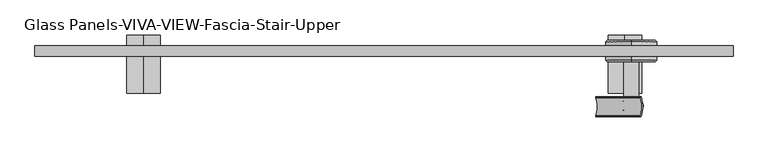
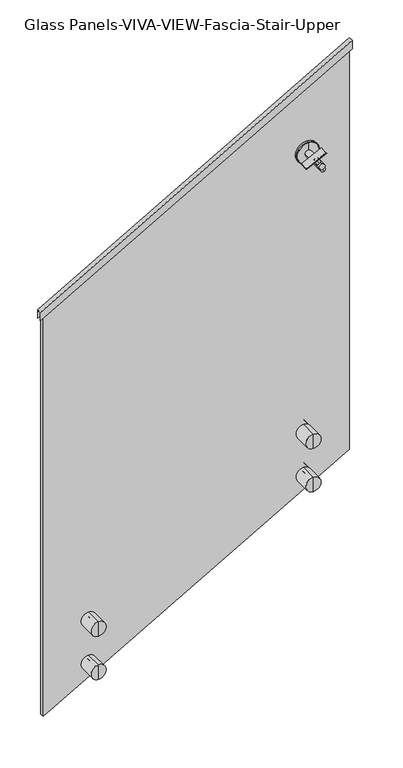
"""IFC4 building model written with IfcOpenShell, lengths in millimetres: railing geometry, Glass Panels-VIVA-VIEW-Fascia-Stair-Upper."""

from ifc_helpers import new_model, si_unit, point, frame, frame_2d, origin, place, context, project, spatial, polyline, circle_curve, trimmed, segment, composite_curve, outline, extrude, faceted_brep, source, transform, mapped, element, save
from ifc_brep_helpers import plane_surface, cylinder_surface, revolved_surface, advanced_brep


def glass_panels_viva_view_fascia_stair_upper_51e52ba1(model_context):
    return source(origin(), model_context, "Body", "SolidModel", [
        faceted_brep([(36710.9578933, -1461.4844585, 3542.8464286), (36710.9578933, -1445.6094585, 3542.8464286), (36710.9578933, -1445.6094585, 3513.5919505), (36710.9578933, -1447.1969585, 3513.5919505), (36710.9578933, -1447.1969585, 3541.0180237), (36710.9578933, -1459.8969585, 3541.0180237), (36710.9578933, -1459.8969585, 3513.5919505), (36710.9578933, -1461.4844585, 3513.5919505), (37756.3266433, -1461.4844585, 4140.2), (37756.3266433, -1461.4844585, 4110.9455219), (37756.3266433, -1459.8969585, 4110.9455219), (37756.3266433, -1459.8969585, 4138.3715951), (37756.3266433, -1447.1969585, 4138.3715951), (37756.3266433, -1447.1969585, 4110.9455219), (37756.3266433, -1445.6094585, 4110.9455219), (37756.3266433, -1445.6094585, 4140.2)], [[[0, 1, 2, 3, 4, 5, 6, 7]], [[8, 9, 10, 11, 12, 13, 14, 15]], [[1, 0, 8, 15]], [[2, 1, 15, 14]], [[3, 2, 14, 13]], [[4, 3, 13, 12]], [[5, 4, 12, 11]], [[6, 5, 11, 10]], [[7, 6, 10, 9]], [[0, 7, 9, 8]]]),
        advanced_brep(
        [(36873.6628149, -1429.7347524, 2222.2661821), (36873.6628149, -1429.7347524, 2247.6661821), (36873.6628149, -1429.7347524, 2273.0661821), (36873.6628149, -1447.1972524, 2222.2661821), (36873.6628149, -1447.1972524, 2273.0661821), (36873.6628149, -1447.1972524, 2241.9511821), (36873.6628149, -1447.1972524, 2253.3811821), (36873.6628149, -1459.8972524, 2241.9511821), (36873.6628149, -1459.8972524, 2253.3811821), (36873.6628149, -1459.8972524, 2222.2661821), (36873.6628149, -1459.8972524, 2273.0661821), (36873.6628149, -1517.0471054, 2222.2661821), (36873.6628149, -1517.0471054, 2273.0661821), (36873.6628149, -1517.0471054, 2247.6661821)],
        [
            (0, 1),
            (1, 2),
            (2, 0, circle_curve(frame((36873.6628149, -1429.7347524, 2247.6661821), z_axis=(0.0, 1.0, 0.0), x_axis=(0.0, 0.0, 1.0)), 25.4)),
            (0, 2, circle_curve(frame((36873.6628149, -1429.7347524, 2247.6661821), z_axis=(0.0, 1.0, 0.0), x_axis=(0.0, 0.0, 1.0)), 25.4)),
            (3, 0),
            (2, 4),
            (4, 3, circle_curve(frame((36873.6628149, -1447.1972524, 2247.6661821), z_axis=(0.0, 1.0, 0.0), x_axis=(0.0, 0.0, 1.0)), 25.4)),
            (3, 4, circle_curve(frame((36873.6628149, -1447.1972524, 2247.6661821), z_axis=(0.0, 1.0, 0.0), x_axis=(0.0, 0.0, 1.0)), 25.4)),
            (5, 3),
            (4, 6),
            (6, 5, circle_curve(frame((36873.6628149, -1447.1972524, 2247.6661821), z_axis=(0.0, 1.0, 0.0), x_axis=(0.0, 0.0, 1.0)), 5.715)),
            (5, 6, circle_curve(frame((36873.6628149, -1447.1972524, 2247.6661821), z_axis=(0.0, 1.0, 0.0), x_axis=(0.0, 0.0, 1.0)), 5.715)),
            (7, 5),
            (6, 8),
            (8, 7, circle_curve(frame((36873.6628149, -1459.8972524, 2247.6661821), z_axis=(0.0, 1.0, 0.0), x_axis=(0.0, 0.0, 1.0)), 5.715)),
            (7, 8, circle_curve(frame((36873.6628149, -1459.8972524, 2247.6661821), z_axis=(0.0, 1.0, 0.0), x_axis=(0.0, 0.0, 1.0)), 5.715)),
            (9, 7),
            (8, 10),
            (10, 9, circle_curve(frame((36873.6628149, -1459.8972524, 2247.6661821), z_axis=(0.0, 1.0, 0.0), x_axis=(0.0, 0.0, 1.0)), 25.4)),
            (9, 10, circle_curve(frame((36873.6628149, -1459.8972524, 2247.6661821), z_axis=(0.0, 1.0, 0.0), x_axis=(0.0, 0.0, 1.0)), 25.4)),
            (11, 9),
            (10, 12),
            (12, 11, circle_curve(frame((36873.6628149, -1517.0471054, 2247.6661821), z_axis=(0.0, 1.0, 0.0), x_axis=(0.0, 0.0, 1.0)), 25.4)),
            (11, 12, circle_curve(frame((36873.6628149, -1517.0471054, 2247.6661821), z_axis=(0.0, 1.0, 0.0), x_axis=(0.0, 0.0, 1.0)), 25.4)),
            (13, 11),
            (12, 13),
        ],
        [
            plane_surface(frame((36873.6628149, -1429.7347524, 2247.6661821), z_axis=(0.0, 1.0, 0.0), x_axis=(0.0, 0.0, 1.0))),
            cylinder_surface(frame((36873.6628149, -1361.4721054, 2247.6661821), z_axis=(0.0, -1.0, 0.0), x_axis=(0.0, 0.0, 1.0)), 25.4),
            plane_surface(frame((36873.6628149, -1447.1972524, 2247.6661821), z_axis=(0.0, -1.0, 0.0), x_axis=(0.0, 0.0, 1.0))),
            cylinder_surface(frame((36873.6628149, -1361.4721054, 2247.6661821), z_axis=(0.0, -1.0, 0.0), x_axis=(0.0, 0.0, 1.0)), 5.715),
            plane_surface(frame((36873.6628149, -1459.8972524, 2247.6661821), z_axis=(0.0, 1.0, 0.0), x_axis=(0.0, 0.0, 1.0))),
            plane_surface(frame((36873.6628149, -1517.0471054, 2247.6661821), z_axis=(0.0, -1.0, 0.0), x_axis=(0.0, 0.0, 1.0))),
        ],
        [
            (0, [[1, 2, 3]]),
            (0, [[-2, -1, 4]]),
            (1, [[5, -3, 6, 7]]),
            (1, [[-6, -4, -5, 8]]),
            (2, [[9, -7, 10, 11]]),
            (2, [[-10, -8, -9, 12]]),
            (3, [[13, -11, 14, 15]]),
            (3, [[-14, -12, -13, 16]]),
            (4, [[17, -15, 18, 19]]),
            (4, [[-18, -16, -17, 20]]),
            (1, [[21, -19, 22, 23]]),
            (1, [[-22, -20, -21, 24]]),
            (5, [[25, -23, 26]]),
            (5, [[-26, -24, -25]]),
        ],
    ),
        advanced_brep(
        [(36873.6628149, -1447.1972524, 2394.3511821), (36873.6628149, -1447.1972524, 2374.6661821), (36873.6628149, -1447.1972524, 2425.4661821), (36873.6628149, -1447.1972524, 2405.7811821), (36873.6628149, -1459.8972524, 2394.3511821), (36873.6628149, -1459.8972524, 2405.7811821), (36873.6628149, -1459.8972524, 2374.6661821), (36873.6628149, -1459.8972524, 2425.4661821), (36873.6628149, -1517.0471054, 2374.6661821), (36873.6628149, -1517.0471054, 2425.4661821), (36873.6628149, -1517.0471054, 2400.0661821), (36873.6628149, -1429.7347524, 2374.6661821), (36873.6628149, -1429.7347524, 2400.0661821), (36873.6628149, -1429.7347524, 2425.4661821)],
        [
            (0, 1),
            (1, 2, circle_curve(frame((36873.6628149, -1447.1972524, 2400.0661821), z_axis=(0.0, -1.0, 0.0), x_axis=(0.0, 0.0, 1.0)), 25.4)),
            (2, 3),
            (3, 0, circle_curve(frame((36873.6628149, -1447.1972524, 2400.0661821), z_axis=(0.0, 1.0, 0.0), x_axis=(0.0, 0.0, 1.0)), 5.715)),
            (2, 1, circle_curve(frame((36873.6628149, -1447.1972524, 2400.0661821), z_axis=(0.0, -1.0, 0.0), x_axis=(0.0, 0.0, 1.0)), 25.4)),
            (0, 3, circle_curve(frame((36873.6628149, -1447.1972524, 2400.0661821), z_axis=(0.0, 1.0, 0.0), x_axis=(0.0, 0.0, 1.0)), 5.715)),
            (4, 0),
            (3, 5),
            (5, 4, circle_curve(frame((36873.6628149, -1459.8972524, 2400.0661821), z_axis=(0.0, 1.0, 0.0), x_axis=(0.0, 0.0, 1.0)), 5.715)),
            (4, 5, circle_curve(frame((36873.6628149, -1459.8972524, 2400.0661821), z_axis=(0.0, 1.0, 0.0), x_axis=(0.0, 0.0, 1.0)), 5.715)),
            (6, 4),
            (5, 7),
            (7, 6, circle_curve(frame((36873.6628149, -1459.8972524, 2400.0661821), z_axis=(0.0, 1.0, 0.0), x_axis=(0.0, 0.0, 1.0)), 25.4)),
            (6, 7, circle_curve(frame((36873.6628149, -1459.8972524, 2400.0661821), z_axis=(0.0, 1.0, 0.0), x_axis=(0.0, 0.0, 1.0)), 25.4)),
            (8, 6),
            (7, 9),
            (9, 8, circle_curve(frame((36873.6628149, -1517.0471054, 2400.0661821), z_axis=(0.0, 1.0, 0.0), x_axis=(0.0, 0.0, 1.0)), 25.4)),
            (8, 9, circle_curve(frame((36873.6628149, -1517.0471054, 2400.0661821), z_axis=(0.0, 1.0, 0.0), x_axis=(0.0, 0.0, 1.0)), 25.4)),
            (10, 8),
            (9, 10),
            (11, 12),
            (12, 13),
            (13, 11, circle_curve(frame((36873.6628149, -1429.7347524, 2400.0661821), z_axis=(0.0, 1.0, 0.0), x_axis=(0.0, 0.0, 1.0)), 25.4)),
            (11, 13, circle_curve(frame((36873.6628149, -1429.7347524, 2400.0661821), z_axis=(0.0, 1.0, 0.0), x_axis=(0.0, 0.0, 1.0)), 25.4)),
            (1, 11),
            (13, 2),
        ],
        [
            plane_surface(frame((36873.6628149, -1447.1972524, 2400.0661821), z_axis=(0.0, -1.0, 0.0), x_axis=(0.0, 0.0, 1.0))),
            cylinder_surface(frame((36873.6628149, -1361.4721054, 2400.0661821), z_axis=(0.0, -1.0, 0.0), x_axis=(0.0, 0.0, 1.0)), 5.715),
            plane_surface(frame((36873.6628149, -1459.8972524, 2400.0661821), z_axis=(0.0, 1.0, 0.0), x_axis=(0.0, 0.0, 1.0))),
            cylinder_surface(frame((36873.6628149, -1361.4721054, 2400.0661821), z_axis=(0.0, -1.0, 0.0), x_axis=(0.0, 0.0, 1.0)), 25.4),
            plane_surface(frame((36873.6628149, -1517.0471054, 2400.0661821), z_axis=(0.0, -1.0, 0.0), x_axis=(0.0, 0.0, 1.0))),
            plane_surface(frame((36873.6628149, -1429.7347524, 2400.0661821), z_axis=(0.0, 1.0, 0.0), x_axis=(0.0, 0.0, 1.0))),
        ],
        [
            (0, [[1, 2, 3, 4]]),
            (0, [[-3, 5, -1, 6]]),
            (1, [[7, -4, 8, 9]]),
            (1, [[-8, -6, -7, 10]]),
            (2, [[11, -9, 12, 13]]),
            (2, [[-12, -10, -11, 14]]),
            (3, [[15, -13, 16, 17]]),
            (3, [[-16, -14, -15, 18]]),
            (4, [[19, -17, 20]]),
            (4, [[-20, -18, -19]]),
            (5, [[21, 22, 23]]),
            (5, [[-22, -21, 24]]),
            (3, [[25, -23, 26, -2]]),
            (3, [[-26, -24, -25, -5]]),
        ],
    ),
        advanced_brep(
        [(37594.3878149, -1429.7347524, 2634.1090392), (37594.3878149, -1429.7347524, 2659.5090392), (37594.3878149, -1429.7347524, 2684.9090392), (37594.3878149, -1447.1972524, 2634.1090392), (37594.3878149, -1447.1972524, 2684.9090392), (37594.3878149, -1447.1972524, 2653.7940392), (37594.3878149, -1447.1972524, 2665.2240392), (37594.3878149, -1459.8972524, 2653.7940392), (37594.3878149, -1459.8972524, 2665.2240392), (37594.3878149, -1459.8972524, 2634.1090392), (37594.3878149, -1459.8972524, 2684.9090392), (37594.3878149, -1517.0471054, 2634.1090392), (37594.3878149, -1517.0471054, 2684.9090392), (37594.3878149, -1517.0471054, 2659.5090392)],
        [
            (0, 1),
            (1, 2),
            (2, 0, circle_curve(frame((37594.3878149, -1429.7347524, 2659.5090392), z_axis=(0.0, 1.0, 0.0), x_axis=(0.0, 0.0, 1.0)), 25.4)),
            (0, 2, circle_curve(frame((37594.3878149, -1429.7347524, 2659.5090392), z_axis=(0.0, 1.0, 0.0), x_axis=(0.0, 0.0, 1.0)), 25.4)),
            (3, 0),
            (2, 4),
            (4, 3, circle_curve(frame((37594.3878149, -1447.1972524, 2659.5090392), z_axis=(0.0, 1.0, 0.0), x_axis=(0.0, 0.0, 1.0)), 25.4)),
            (3, 4, circle_curve(frame((37594.3878149, -1447.1972524, 2659.5090392), z_axis=(0.0, 1.0, 0.0), x_axis=(0.0, 0.0, 1.0)), 25.4)),
            (5, 3),
            (4, 6),
            (6, 5, circle_curve(frame((37594.3878149, -1447.1972524, 2659.5090392), z_axis=(0.0, 1.0, 0.0), x_axis=(0.0, 0.0, 1.0)), 5.715)),
            (5, 6, circle_curve(frame((37594.3878149, -1447.1972524, 2659.5090392), z_axis=(0.0, 1.0, 0.0), x_axis=(0.0, 0.0, 1.0)), 5.715)),
            (7, 5),
            (6, 8),
            (8, 7, circle_curve(frame((37594.3878149, -1459.8972524, 2659.5090392), z_axis=(0.0, 1.0, 0.0), x_axis=(0.0, 0.0, 1.0)), 5.715)),
            (7, 8, circle_curve(frame((37594.3878149, -1459.8972524, 2659.5090392), z_axis=(0.0, 1.0, 0.0), x_axis=(0.0, 0.0, 1.0)), 5.715)),
            (9, 7),
            (8, 10),
            (10, 9, circle_curve(frame((37594.3878149, -1459.8972524, 2659.5090392), z_axis=(0.0, 1.0, 0.0), x_axis=(0.0, 0.0, 1.0)), 25.4)),
            (9, 10, circle_curve(frame((37594.3878149, -1459.8972524, 2659.5090392), z_axis=(0.0, 1.0, 0.0), x_axis=(0.0, 0.0, 1.0)), 25.4)),
            (11, 9),
            (10, 12),
            (12, 11, circle_curve(frame((37594.3878149, -1517.0471054, 2659.5090392), z_axis=(0.0, 1.0, 0.0), x_axis=(0.0, 0.0, 1.0)), 25.4)),
            (11, 12, circle_curve(frame((37594.3878149, -1517.0471054, 2659.5090392), z_axis=(0.0, 1.0, 0.0), x_axis=(0.0, 0.0, 1.0)), 25.4)),
            (13, 11),
            (12, 13),
        ],
        [
            plane_surface(frame((37594.3878149, -1429.7347524, 2659.5090392), z_axis=(0.0, 1.0, 0.0), x_axis=(0.0, 0.0, 1.0))),
            cylinder_surface(frame((37594.3878149, -1361.4721054, 2659.5090392), z_axis=(0.0, -1.0, 0.0), x_axis=(0.0, 0.0, 1.0)), 25.4),
            plane_surface(frame((37594.3878149, -1447.1972524, 2659.5090392), z_axis=(0.0, -1.0, 0.0), x_axis=(0.0, 0.0, 1.0))),
            cylinder_surface(frame((37594.3878149, -1361.4721054, 2659.5090392), z_axis=(0.0, -1.0, 0.0), x_axis=(0.0, 0.0, 1.0)), 5.715),
            plane_surface(frame((37594.3878149, -1459.8972524, 2659.5090392), z_axis=(0.0, 1.0, 0.0), x_axis=(0.0, 0.0, 1.0))),
            plane_surface(frame((37594.3878149, -1517.0471054, 2659.5090392), z_axis=(0.0, -1.0, 0.0), x_axis=(0.0, 0.0, 1.0))),
        ],
        [
            (0, [[1, 2, 3]]),
            (0, [[-2, -1, 4]]),
            (1, [[5, -3, 6, 7]]),
            (1, [[-6, -4, -5, 8]]),
            (2, [[9, -7, 10, 11]]),
            (2, [[-10, -8, -9, 12]]),
            (3, [[13, -11, 14, 15]]),
            (3, [[-14, -12, -13, 16]]),
            (4, [[17, -15, 18, 19]]),
            (4, [[-18, -16, -17, 20]]),
            (1, [[21, -19, 22, 23]]),
            (1, [[-22, -20, -21, 24]]),
            (5, [[25, -23, 26]]),
            (5, [[-26, -24, -25]]),
        ],
    ),
        advanced_brep(
        [(37594.3878149, -1447.1972524, 2806.1940392), (37594.3878149, -1447.1972524, 2786.5090392), (37594.3878149, -1447.1972524, 2837.3090392), (37594.3878149, -1447.1972524, 2817.6240392), (37594.3878149, -1459.8972524, 2806.1940392), (37594.3878149, -1459.8972524, 2817.6240392), (37594.3878149, -1459.8972524, 2786.5090392), (37594.3878149, -1459.8972524, 2837.3090392), (37594.3878149, -1517.0471054, 2786.5090392), (37594.3878149, -1517.0471054, 2837.3090392), (37594.3878149, -1517.0471054, 2811.9090392), (37594.3878149, -1429.7347524, 2786.5090392), (37594.3878149, -1429.7347524, 2811.9090392), (37594.3878149, -1429.7347524, 2837.3090392)],
        [
            (0, 1),
            (1, 2, circle_curve(frame((37594.3878149, -1447.1972524, 2811.9090392), z_axis=(0.0, -1.0, 0.0), x_axis=(0.0, 0.0, 1.0)), 25.4)),
            (2, 3),
            (3, 0, circle_curve(frame((37594.3878149, -1447.1972524, 2811.9090392), z_axis=(0.0, 1.0, 0.0), x_axis=(0.0, 0.0, 1.0)), 5.715)),
            (2, 1, circle_curve(frame((37594.3878149, -1447.1972524, 2811.9090392), z_axis=(0.0, -1.0, 0.0), x_axis=(0.0, 0.0, 1.0)), 25.4)),
            (0, 3, circle_curve(frame((37594.3878149, -1447.1972524, 2811.9090392), z_axis=(0.0, 1.0, 0.0), x_axis=(0.0, 0.0, 1.0)), 5.715)),
            (4, 0),
            (3, 5),
            (5, 4, circle_curve(frame((37594.3878149, -1459.8972524, 2811.9090392), z_axis=(0.0, 1.0, 0.0), x_axis=(0.0, 0.0, 1.0)), 5.715)),
            (4, 5, circle_curve(frame((37594.3878149, -1459.8972524, 2811.9090392), z_axis=(0.0, 1.0, 0.0), x_axis=(0.0, 0.0, 1.0)), 5.715)),
            (6, 4),
            (5, 7),
            (7, 6, circle_curve(frame((37594.3878149, -1459.8972524, 2811.9090392), z_axis=(0.0, 1.0, 0.0), x_axis=(0.0, 0.0, 1.0)), 25.4)),
            (6, 7, circle_curve(frame((37594.3878149, -1459.8972524, 2811.9090392), z_axis=(0.0, 1.0, 0.0), x_axis=(0.0, 0.0, 1.0)), 25.4)),
            (8, 6),
            (7, 9),
            (9, 8, circle_curve(frame((37594.3878149, -1517.0471054, 2811.9090392), z_axis=(0.0, 1.0, 0.0), x_axis=(0.0, 0.0, 1.0)), 25.4)),
            (8, 9, circle_curve(frame((37594.3878149, -1517.0471054, 2811.9090392), z_axis=(0.0, 1.0, 0.0), x_axis=(0.0, 0.0, 1.0)), 25.4)),
            (10, 8),
            (9, 10),
            (11, 12),
            (12, 13),
            (13, 11, circle_curve(frame((37594.3878149, -1429.7347524, 2811.9090392), z_axis=(0.0, 1.0, 0.0), x_axis=(0.0, 0.0, 1.0)), 25.4)),
            (11, 13, circle_curve(frame((37594.3878149, -1429.7347524, 2811.9090392), z_axis=(0.0, 1.0, 0.0), x_axis=(0.0, 0.0, 1.0)), 25.4)),
            (1, 11),
            (13, 2),
        ],
        [
            plane_surface(frame((37594.3878149, -1447.1972524, 2811.9090392), z_axis=(0.0, -1.0, 0.0), x_axis=(0.0, 0.0, 1.0))),
            cylinder_surface(frame((37594.3878149, -1361.4721054, 2811.9090392), z_axis=(0.0, -1.0, 0.0), x_axis=(0.0, 0.0, 1.0)), 5.715),
            plane_surface(frame((37594.3878149, -1459.8972524, 2811.9090392), z_axis=(0.0, 1.0, 0.0), x_axis=(0.0, 0.0, 1.0))),
            cylinder_surface(frame((37594.3878149, -1361.4721054, 2811.9090392), z_axis=(0.0, -1.0, 0.0), x_axis=(0.0, 0.0, 1.0)), 25.4),
            plane_surface(frame((37594.3878149, -1517.0471054, 2811.9090392), z_axis=(0.0, -1.0, 0.0), x_axis=(0.0, 0.0, 1.0))),
            plane_surface(frame((37594.3878149, -1429.7347524, 2811.9090392), z_axis=(0.0, 1.0, 0.0), x_axis=(0.0, 0.0, 1.0))),
        ],
        [
            (0, [[1, 2, 3, 4]]),
            (0, [[-3, 5, -1, 6]]),
            (1, [[7, -4, 8, 9]]),
            (1, [[-8, -6, -7, 10]]),
            (2, [[11, -9, 12, 13]]),
            (2, [[-12, -10, -11, 14]]),
            (3, [[15, -13, 16, 17]]),
            (3, [[-16, -14, -15, 18]]),
            (4, [[19, -17, 20]]),
            (4, [[-20, -18, -19]]),
            (5, [[21, 22, 23]]),
            (5, [[-22, -21, 24]]),
            (3, [[25, -23, 26, -2]]),
            (3, [[-26, -24, -25, -5]]),
        ],
    ),
        extrude(outline(polyline([(4132.9242304, 37746.7878149), (3546.9099447, 36721.2628149), (2109.7804678, 36721.2628149), (2695.7947535, 37746.7878149), (4132.9242304, 37746.7878149)])), frame((0.0, -1459.8969585, 0.0), z_axis=(0.0, 1.0, 0.0), x_axis=(0.0, 0.0, 1.0)), (0.0, 0.0, 1.0), 12.7),
        extrude(outline(composite_curve([segment(trimmed(circle_curve(frame_2d((0.0, 7.0)), 7.0), [point((0.0, 14.0))], [point((0.0, 0.0))], False, "CARTESIAN"), True, "CONTINUOUS"), segment(trimmed(circle_curve(frame_2d((0.0, 7.0)), 7.0), [point((0.0, 0.0))], [point((0.0, 14.0))], False, "CARTESIAN"), True, "CONTINUOUS")], self_intersect=False)), frame((37615.347567, -1528.7668194, 3776.2378704), z_axis=(-0.4481147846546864, 0.0, 0.8939760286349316), x_axis=(-0.8939760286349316, 0.0, -0.4481147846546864)), (0.0, 0.0, 1.0), 52.8378352),
        extrude(outline(composite_curve([segment(polyline([(5.2466063, -13.9247916), (4.2292192, -14.9511812)]), True, "CONTINUOUS"), segment(trimmed(circle_curve(frame_2d((3.1638974, -13.8952033)), 1.5), [point((4.2292192, -14.9511812))], [point((2.0329756, -14.8806048))], False, "CARTESIAN"), True, "CONTINUOUS"), segment(trimmed(circle_curve(frame_2d((18.6575251, -0.3952033)), 22.05), [point((2.0329756, -14.8806048))], [point((2.0329756, 14.0901981))], False, "CARTESIAN"), True, "CONTINUOUS"), segment(trimmed(circle_curve(frame_2d((3.1638974, 13.1047967)), 1.5), [point((2.0329756, 14.0901981))], [point((4.2292192, 14.1607745))], False, "CARTESIAN"), True, "CONTINUOUS"), segment(polyline([(4.2292192, 14.1607745), (5.2466063, 13.1343849)]), True, "CONTINUOUS"), segment(trimmed(circle_curve(frame_2d((18.6575251, -0.3952033)), 19.05), [point((5.2466063, 13.1343849))], [point((5.2466063, -13.9247916))], True, "CARTESIAN"), True, "CONTINUOUS")], self_intersect=False)), frame((37552.693589, -1537.4940518, 3807.8629743), z_axis=(0.8953503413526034, 0.0, 0.44536251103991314), x_axis=(-0.44536251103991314, 0.0, 0.8953503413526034)), (0.0, 0.0, 1.0), 74.5229187),
        extrude(outline(composite_curve([segment(trimmed(circle_curve(frame_2d((3799.1142857, 37603.9266433)), 11.0132813), [point((3799.1142857, 37614.9399245))], [point((3799.1142857, 37592.913362))], False, "CARTESIAN"), True, "CONTINUOUS"), segment(trimmed(circle_curve(frame_2d((3799.1142857, 37603.9266433)), 11.0132813), [point((3799.1142857, 37592.913362))], [point((3799.1142857, 37614.9399245))], False, "CARTESIAN"), True, "CONTINUOUS")], self_intersect=False)), frame((0.0, -1548.7969585, 0.0), z_axis=(0.0, 1.0, 0.0), x_axis=(0.0, 0.0, 1.0)), (0.0, 0.0, 1.0), 79.2757812),
        advanced_brep(
        [(37603.9266433, -1437.5727397, 3799.1142857), (37603.9266433, -1437.5727397, 3762.9986607), (37603.9266433, -1437.5727397, 3835.2299107), (37603.9266433, -1469.5211772, 3762.9986607), (37603.9266433, -1469.5211772, 3799.1142857), (37603.9266433, -1469.5211772, 3835.2299107), (37603.9266433, -1467.5368022, 3761.0142857), (37603.9266433, -1467.5368022, 3837.2142857), (37603.9266433, -1459.8969585, 3761.0142857), (37603.9266433, -1459.8969585, 3837.2142857), (37603.9266433, -1459.8969585, 3786.4142857), (37603.9266433, -1459.8969585, 3811.8142857), (37603.9266433, -1447.1969585, 3786.4142857), (37603.9266433, -1447.1969585, 3811.8142857), (37603.9266433, -1447.1969585, 3761.0142857), (37603.9266433, -1447.1969585, 3837.2142857), (37603.9266433, -1439.5571147, 3761.0142857), (37603.9266433, -1439.5571147, 3837.2142857)],
        [
            (0, 1),
            (1, 2, circle_curve(frame((37603.9266433, -1437.5727397, 3799.1142857), z_axis=(0.0, 1.0, 0.0), x_axis=(0.0, 0.0, 1.0)), 36.115625)),
            (2, 0),
            (2, 1, circle_curve(frame((37603.9266433, -1437.5727397, 3799.1142857), z_axis=(0.0, 1.0, 0.0), x_axis=(0.0, 0.0, 1.0)), 36.115625)),
            (3, 4),
            (4, 5),
            (5, 3, circle_curve(frame((37603.9266433, -1469.5211772, 3799.1142857), z_axis=(0.0, -1.0, 0.0), x_axis=(0.0, 0.0, 1.0)), 36.115625)),
            (3, 5, circle_curve(frame((37603.9266433, -1469.5211772, 3799.1142857), z_axis=(0.0, -1.0, 0.0), x_axis=(0.0, 0.0, 1.0)), 36.115625)),
            (6, 3),
            (5, 7),
            (7, 6, circle_curve(frame((37603.9266433, -1467.5368022, 3799.1142857), z_axis=(0.0, -1.0, 0.0), x_axis=(0.0, 0.0, 1.0)), 38.1)),
            (6, 7, circle_curve(frame((37603.9266433, -1467.5368022, 3799.1142857), z_axis=(0.0, -1.0, 0.0), x_axis=(0.0, 0.0, 1.0)), 38.1)),
            (8, 6),
            (7, 9),
            (9, 8, circle_curve(frame((37603.9266433, -1459.8969585, 3799.1142857), z_axis=(0.0, -1.0, 0.0), x_axis=(0.0, 0.0, 1.0)), 38.1)),
            (8, 9, circle_curve(frame((37603.9266433, -1459.8969585, 3799.1142857), z_axis=(0.0, -1.0, 0.0), x_axis=(0.0, 0.0, 1.0)), 38.1)),
            (10, 8),
            (9, 11),
            (11, 10, circle_curve(frame((37603.9266433, -1459.8969585, 3799.1142857), z_axis=(0.0, -1.0, 0.0), x_axis=(0.0, 0.0, 1.0)), 12.7)),
            (10, 11, circle_curve(frame((37603.9266433, -1459.8969585, 3799.1142857), z_axis=(0.0, -1.0, 0.0), x_axis=(0.0, 0.0, 1.0)), 12.7)),
            (12, 10),
            (11, 13),
            (13, 12, circle_curve(frame((37603.9266433, -1447.1969585, 3799.1142857), z_axis=(0.0, -1.0, 0.0), x_axis=(0.0, 0.0, 1.0)), 12.7)),
            (12, 13, circle_curve(frame((37603.9266433, -1447.1969585, 3799.1142857), z_axis=(0.0, -1.0, 0.0), x_axis=(0.0, 0.0, 1.0)), 12.7)),
            (14, 12),
            (13, 15),
            (15, 14, circle_curve(frame((37603.9266433, -1447.1969585, 3799.1142857), z_axis=(0.0, -1.0, 0.0), x_axis=(0.0, 0.0, 1.0)), 38.1)),
            (14, 15, circle_curve(frame((37603.9266433, -1447.1969585, 3799.1142857), z_axis=(0.0, -1.0, 0.0), x_axis=(0.0, 0.0, 1.0)), 38.1)),
            (16, 14),
            (15, 17),
            (17, 16, circle_curve(frame((37603.9266433, -1439.5571147, 3799.1142857), z_axis=(0.0, -1.0, 0.0), x_axis=(0.0, 0.0, 1.0)), 38.1)),
            (16, 17, circle_curve(frame((37603.9266433, -1439.5571147, 3799.1142857), z_axis=(0.0, -1.0, 0.0), x_axis=(0.0, 0.0, 1.0)), 38.1)),
            (1, 16),
            (17, 2),
        ],
        [
            plane_surface(frame((37603.9266433, -1437.5727397, 3799.1142857), z_axis=(0.0, 1.0, 0.0), x_axis=(0.0, 0.0, 1.0))),
            plane_surface(frame((37603.9266433, -1469.5211772, 3799.1142857), z_axis=(0.0, -1.0, 0.0), x_axis=(0.0, 0.0, 1.0))),
            revolved_surface(polyline([(37603.9266433, -1469.5211772, 3835.2299107), (37603.9266433, -1467.5368022, 3837.2142857)]), (37603.9266433, -1401.4571147, 3799.1142857), (0.0, 1.0, 0.0)),
            cylinder_surface(frame((37603.9266433, -1401.4571147, 3799.1142857), z_axis=(0.0, 1.0, 0.0), x_axis=(0.0, 0.0, 1.0)), 38.1),
            plane_surface(frame((37603.9266433, -1459.8969585, 3799.1142857), z_axis=(0.0, 1.0, 0.0), x_axis=(0.0, 0.0, 1.0))),
            cylinder_surface(frame((37603.9266433, -1401.4571147, 3799.1142857), z_axis=(0.0, 1.0, 0.0), x_axis=(0.0, 0.0, 1.0)), 12.7),
            plane_surface(frame((37603.9266433, -1447.1969585, 3799.1142857), z_axis=(0.0, -1.0, 0.0), x_axis=(0.0, 0.0, 1.0))),
            revolved_surface(polyline([(37603.9266433, -1439.5571147, 3837.2142857), (37603.9266433, -1437.5727397, 3835.2299107)]), (37603.9266433, -1401.4571147, 3799.1142857), (0.0, 1.0, 0.0)),
        ],
        [
            (0, [[1, 2, 3]]),
            (0, [[-3, 4, -1]]),
            (1, [[5, 6, 7]]),
            (1, [[-6, -5, 8]]),
            (2, [[9, -7, 10, 11]]),
            (2, [[-10, -8, -9, 12]]),
            (3, [[13, -11, 14, 15]]),
            (3, [[-14, -12, -13, 16]]),
            (4, [[17, -15, 18, 19]]),
            (4, [[-18, -16, -17, 20]]),
            (5, [[21, -19, 22, 23]]),
            (5, [[-22, -20, -21, 24]]),
            (6, [[25, -23, 26, 27]]),
            (6, [[-26, -24, -25, 28]]),
            (3, [[29, -27, 30, 31]]),
            (3, [[-30, -28, -29, 32]]),
            (7, [[33, -31, 34, -2]]),
            (7, [[-34, -32, -33, -4]]),
        ],
    ),
    ])


if __name__ == "__main__":
    model = new_model("IFC4")
    model_context = context("Model", 3, world=origin())
    ifc_project = project(units=[si_unit("LENGTHUNIT", "METRE", prefix="MILLI")], contexts=[model_context])
    site = spatial("IfcSite", under=ifc_project)
    building = spatial("IfcBuilding", under=site)
    placement = place(None, origin())
    glass_panels_viva_view_fascia_stair_upper_shape = glass_panels_viva_view_fascia_stair_upper_51e52ba1(model_context)
    element("IfcRailing", 1, ObjectType="Glass Panels-VIVA-VIEW-Fascia-Stair-Upper", at=placement, inside=building, context=model_context, shape_type="MappedRepresentation", body=[
        mapped(glass_panels_viva_view_fascia_stair_upper_shape, transform((0.0, 0.0, 0.0), x_axis=(1.0, 0.0, 0.0), y_axis=(0.0, 1.0, 0.0), z_axis=(0.0, 0.0, 1.0))),
    ])
    save(model, "model.ifc")
